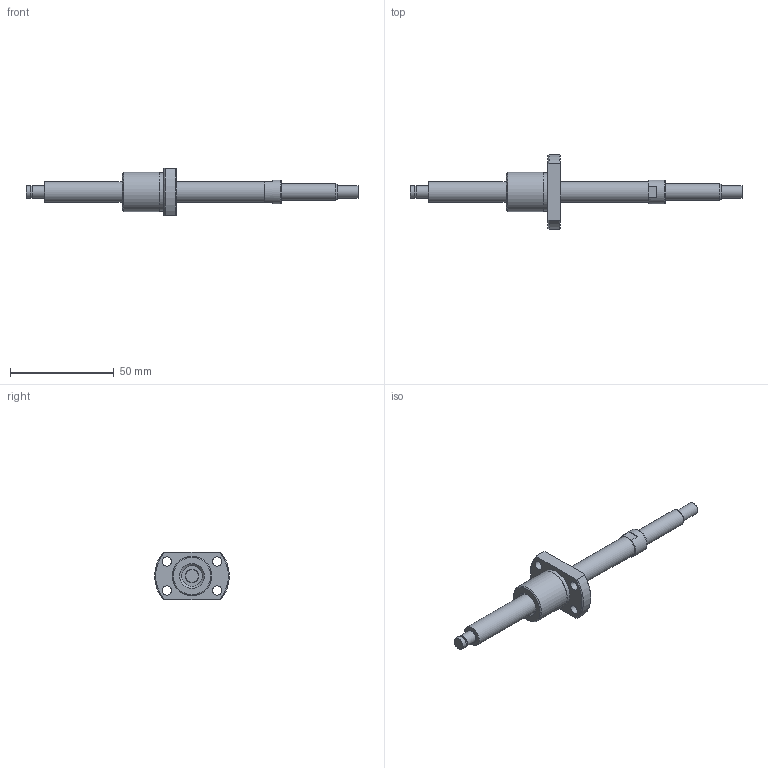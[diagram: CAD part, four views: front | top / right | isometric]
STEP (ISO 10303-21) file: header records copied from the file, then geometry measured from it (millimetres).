
FILE_DESCRIPTION(/* description */ ('STEP AP214'),/* implementation_level */ '2;1');
FILE_NAME(/* name */ 'NSGF1004Z-101R160C3-0-T-S-T-B-(37.5-S)',/* time_stamp */ '2026-08-24T20:15:25+02:00',/* author */ ('License CC BY-ND 4.0'),/* organization */ ('CADENAS'),/* preprocessor_version */ 'ST-DEVELOPER v20',/* originating_system */ 'PARTsolutions',/* authorisation */ ' ');
FILE_SCHEMA (('AUTOMOTIVE_DESIGN {1 0 10303 214 3 1 1}'));
Length unit declared in the file: millimetre
Products named in the file (3): NSGF1004Z-101R160C3-0-T-S-T-B-(37.5-S); NSG1004Z-101R16026_(T-S_T-B_2)_2; NSGF1004Z-1
Assembly tree (2 placements, depth 2):
  NSGF1004Z-101R160C3-0-T-S-T-B-(37.5-S)
    NSG1004Z-101R16026_(T-S_T-B_2)_2
    NSGF1004Z-1
Bounding box: 160 x 36 x 23 mm (x, y, z)
Volume: 18204.1 mm3; surface area: 9122.3 mm2
Topology: 2 solids, 2 shells, 47 faces, 99 edges, 64 vertices
Faces by surface type: plane 20, cylinder 17, cone 8, torus 2
Full cylindrical faces by diameter (mm): 4.5 x4, 5.7 x1, 6 x3, 8 x1, 10 x2, 11.5 x1, 16 x1, 18.7 x1, 19 x1
Entity records: 1235 total; most frequent: DIRECTION 214, CARTESIAN_POINT 208, ORIENTED_EDGE 148, AXIS2_PLACEMENT_3D 98, EDGE_LOOP 86, FACE_BOUND 86, EDGE_CURVE 74, VERTEX_POINT 60
